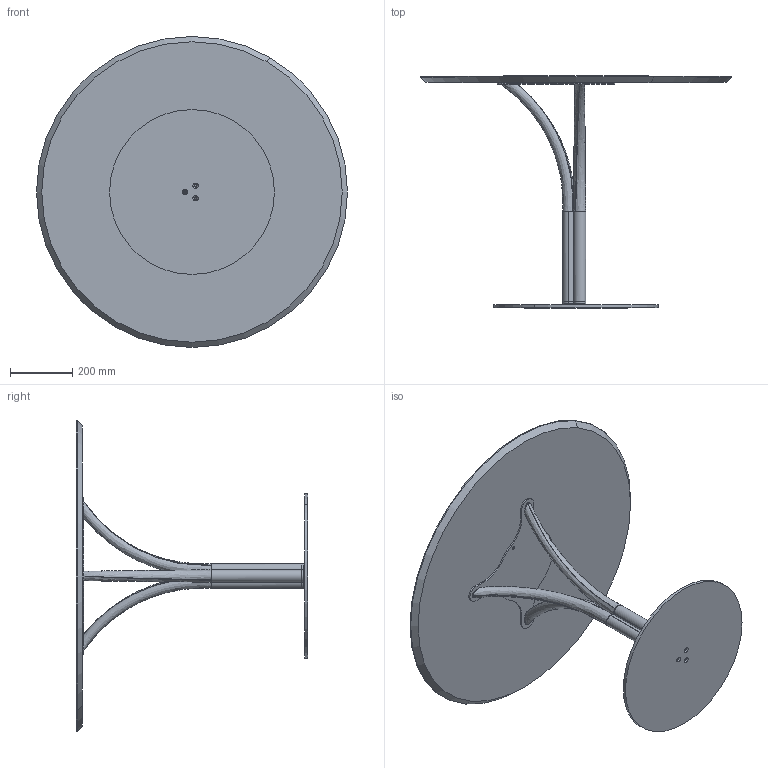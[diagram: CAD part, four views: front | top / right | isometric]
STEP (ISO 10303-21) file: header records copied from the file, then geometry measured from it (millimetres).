
FILE_DESCRIPTION (( 'STEP AP203' ), '1' );
FILE_NAME ('DB30W.STEP', '2024-08-08T08:14:01', ( '' ), ( '' ), 'SwSTEP 2.0', 'SolidWorks 2022', '' );
FILE_SCHEMA (( 'CONFIG_CONTROL_DESIGN' ));
Length unit declared in the file: millimetre
Products named in the file (6): DOD000000-01-DODO BASE ; CBS000000BAS-00-BISTRO PIASTRA INFERIORE_D.530; DOD000000_02-00-Gamba curvata per DODO''_Default<A macchina>; DOD000000_01-01-poggiapiano; W1XCMXX-00-Piani Rotondi legno_D.1000 SP.20cm; DB30W
Assembly tree (7 placements, depth 3):
  DB30W
    CBS000000BAS-00-BISTRO PIASTRA INFERIORE_D.530
    DOD000000-01-DODO BASE 
      DOD000000_02-00-Gamba curvata per DODO''_Default<A macchina>  x3
      DOD000000_01-01-poggiapiano
    W1XCMXX-00-Piani Rotondi legno_D.1000 SP.20cm
Bounding box: 1000 x 745 x 1000 mm (x, y, z)
Volume: 18352743.2 mm3; surface area: 2738065.9 mm2
Topology: 9 solids, 9 shells, 113 faces, 269 edges, 170 vertices
Faces by surface type: cylinder 61, plane 24, cone 16, bspline 12
Entity records: 6327 total; most frequent: CARTESIAN_POINT 3703, DIRECTION 443, ORIENTED_EDGE 378, EDGE_CURVE 189, AXIS2_PLACEMENT_3D 182, VERTEX_POINT 122, EDGE_LOOP 101, CIRCLE 94
